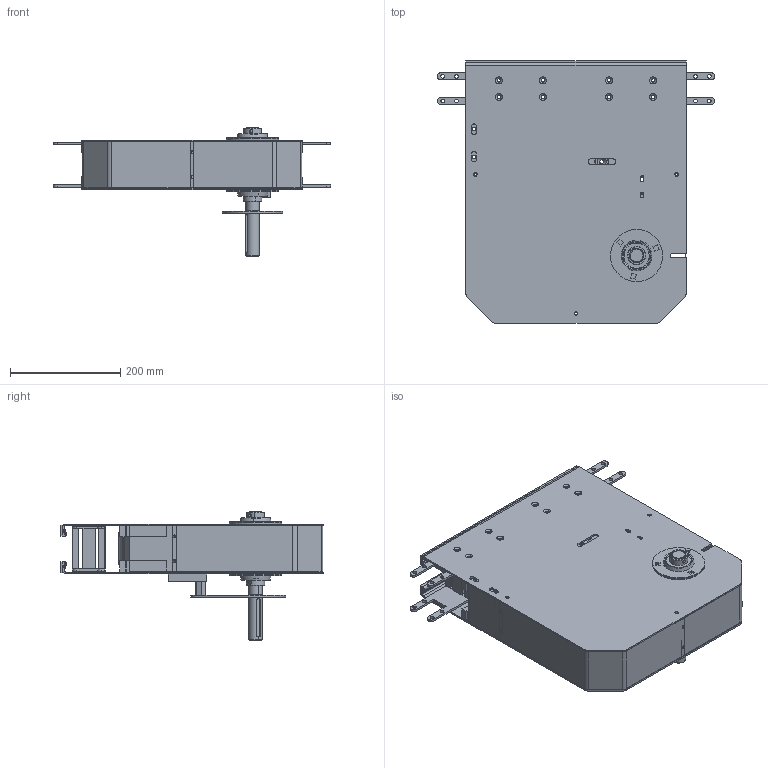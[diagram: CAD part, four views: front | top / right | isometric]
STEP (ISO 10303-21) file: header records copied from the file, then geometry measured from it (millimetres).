
FILE_DESCRIPTION (( 'STEP AP203' ), '1' );
FILE_NAME ('2000.325.949.STEP', '2015-06-05T11:47:35', ( '' ), ( '' ), 'SwSTEP 2.0', 'SolidWorks 2012', '' );
FILE_SCHEMA (( 'CONFIG_CONTROL_DESIGN' ));
Length unit declared in the file: millimetre
Products named in the file (1): 2000.325.949
Bounding box: 503 x 476 x 233.5 mm (x, y, z)
Surface area: 1283038.9 mm2 (no closed solid volume)
Topology: 0 solids, 91 shells, 685 faces, 2382 edges, 1759 vertices
Faces by surface type: plane 310, cylinder 309, cone 48, torus 10, bspline 8
Entity records: 26917 total; most frequent: CARTESIAN_POINT 5575, DIRECTION 4696, ORIENTED_EDGE 3738, EDGE_CURVE 2382, VERTEX_POINT 1759, AXIS2_PLACEMENT_3D 1668, VECTOR 1360, LINE 1360
